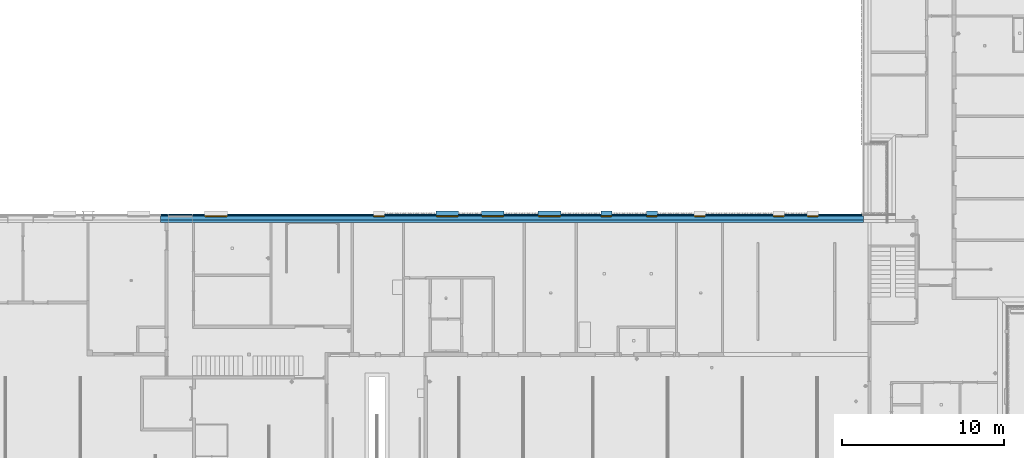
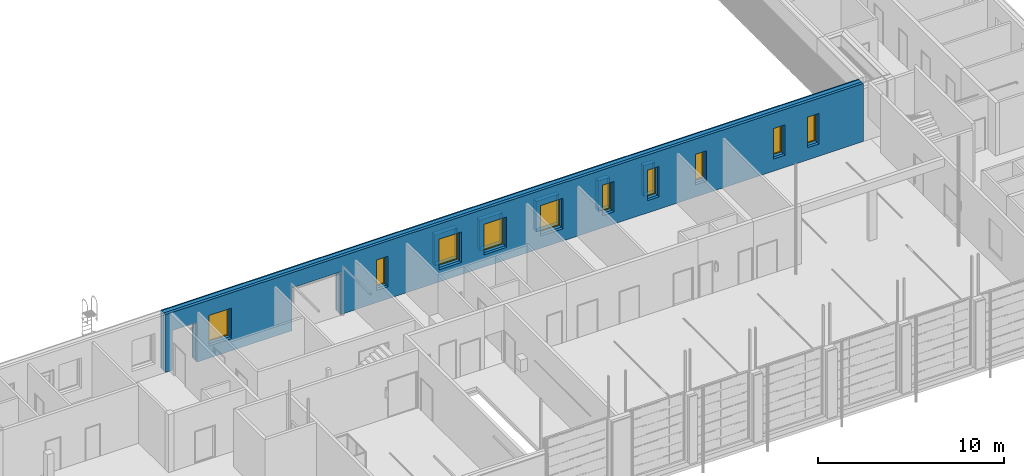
# One storey, part 32 of 112: 10 windows, 5 discrete accessories, 3 building element parts, 12 openings, 1 element without a shape of its own.
"""IFC2X3 building model written with IfcOpenShell, lengths in millimetres."""

from ifc_helpers import new_model, entity, si_unit, converted_unit, derived_unit, money_unit, direction, frame, origin_with_axes, origin_2d_with_axis, place, context, subcontext, project, spatial, polyline, rectangle, outline, extrude, open_shell, faceted_brep, surface_model, source, transform, mapped, material, type_object, element, fill, aggregate, save


model = new_model("IFC2X3")

# Units and contexts
model_context = context("Model", 3, precision=0.01, world=origin_with_axes(), true_north=direction((0.0, 1.0)))
body_context = subcontext(model_context, "Body", "Model", "MODEL_VIEW")
ifc_project = project(units=[si_unit("LENGTHUNIT", "METRE", prefix="MILLI"), si_unit("AREAUNIT", "SQUARE_METRE"), si_unit("VOLUMEUNIT", "CUBIC_METRE"), converted_unit("PLANEANGLEUNIT", "DEGREE", entity("IfcPlaneAngleMeasure", 0.0174532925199), si_unit("PLANEANGLEUNIT", "RADIAN"), dimensions=[0, 0, 0, 0, 0, 0, 0]), si_unit("SOLIDANGLEUNIT", "STERADIAN"), money_unit("EUR"), converted_unit("TIMEUNIT", "Year", entity("IfcTimeMeasure", 31556926.0), si_unit("TIMEUNIT", "SECOND"), dimensions=[0, 0, 1, 0, 0, 0, 0]), si_unit("MASSUNIT", "GRAM", prefix="KILO"), si_unit("THERMODYNAMICTEMPERATUREUNIT", "DEGREE_CELSIUS"), si_unit("LUMINOUSINTENSITYUNIT", "LUMEN"), si_unit("ENERGYUNIT", "JOULE", prefix="MEGA"), derived_unit("THERMALCONDUCTANCEUNIT", [(si_unit("POWERUNIT", "WATT"), 1), (si_unit("LENGTHUNIT", "METRE"), -1), (si_unit("THERMODYNAMICTEMPERATUREUNIT", "KELVIN"), -1)]), derived_unit("SPECIFICHEATCAPACITYUNIT", [(si_unit("ENERGYUNIT", "JOULE"), 1), (si_unit("MASSUNIT", "GRAM", prefix="KILO"), -1), (si_unit("THERMODYNAMICTEMPERATUREUNIT", "KELVIN"), -1)]), derived_unit("MASSDENSITYUNIT", [(si_unit("MASSUNIT", "GRAM", prefix="KILO"), 1), (si_unit("VOLUMEUNIT", "CUBIC_METRE"), -1)])], contexts=[model_context])

# Site, building, storey
site_placement = place(None, origin_with_axes())
site = spatial("IfcSite", under=ifc_project, at=site_placement, Name="Politse- ja Piirivalveameti ning Päästeameti ühishoone", CompositionType="ELEMENT")
building_placement = place(site_placement, origin_with_axes())
building = spatial("IfcBuilding", under=site, at=building_placement, Name="Politse- ja Piirivalveameti ning Päästeameti ühishoone", CompositionType="ELEMENT")
storey_placement = place(building_placement, origin_with_axes())
storey = spatial("IfcBuildingStorey", under=building, at=storey_placement, Name="Esimene korrus", CompositionType="ELEMENT", Elevation=0.0)

# Window
window_style_1 = type_object("IfcWindowStyle", Name="Window 23", ConstructionType="NOTDEFINED", OperationType="SINGLE_PANEL", ParameterTakesPrecedence=False, Sizeable=False)
shared_shape_1 = source(origin_with_axes(), body_context, "Body", "SurfaceModel", [
    faceted_brep([(-675.0, 0.0, 1950.0), (-700.0, 0.0, 1950.0), (-700.0, -50.0, 1950.0), (-650.0, -50.0, 1950.0), (-650.0, -25.0, 1950.0), (-675.0, -25.0, 1950.0), (-675.0, 0.0, 50.0), (-700.0, 0.0, 50.0), (-700.0, -50.0, 50.0), (-650.0, -50.0, 50.0), (-650.0, -25.0, 50.0), (-675.0, -25.0, 50.0)], [[[0, 1, 2, 3, 4, 5]], [[6, 7, 1, 0]], [[1, 7, 8, 2]], [[2, 8, 9, 3]], [[4, 3, 9, 10]], [[10, 11, 5, 4]], [[5, 11, 6, 0]], [[11, 10, 9, 8, 7, 6]]]),
    faceted_brep([(650.0, -25.0, 1950.0), (650.0, -50.0, 1950.0), (700.0, -50.0, 1950.0), (700.0, 0.0, 1950.0), (675.0, 0.0, 1950.0), (675.0, -25.0, 1950.0), (650.0, -25.0, 50.0), (650.0, -50.0, 50.0), (700.0, -50.0, 50.0), (700.0, 0.0, 50.0), (675.0, 0.0, 50.0), (675.0, -25.0, 50.0)], [[[0, 1, 2, 3, 4, 5]], [[6, 7, 1, 0]], [[8, 2, 1, 7]], [[9, 3, 2, 8]], [[4, 3, 9, 10]], [[10, 11, 5, 4]], [[5, 11, 6, 0]], [[11, 10, 9, 8, 7, 6]]]),
    faceted_brep([(650.0, -25.0, 50.0), (650.0, -50.0, 50.0), (700.0, -50.0, 50.0), (700.0, 0.0, 50.0), (675.0, 0.0, 50.0), (675.0, -25.0, 50.0), (-650.0, -25.0, 50.0), (-650.0, -50.0, 50.0), (-700.0, -50.0, 50.0), (-700.0, -50.0, 0.0), (700.0, -50.0, 0.0), (700.0, 0.0, 0.0), (-675.0, 0.0, 25.0), (675.0, 0.0, 25.0), (-700.0, 0.0, 0.0), (-700.0, 0.0, 50.0), (-675.0, 0.0, 50.0), (675.0, -25.0, 25.0), (-675.0, -25.0, 25.0), (-675.0, -25.0, 50.0)], [[[0, 1, 2, 3, 4, 5]], [[6, 7, 1, 0]], [[8, 9, 10, 2, 1, 7]], [[11, 3, 2, 10]], [[12, 13, 4, 3, 11, 14, 15, 16]], [[13, 17, 5, 4]], [[5, 17, 18, 19, 6, 0]], [[19, 16, 15, 8, 7, 6]], [[15, 14, 9, 8]], [[14, 11, 10, 9]], [[12, 18, 17, 13]], [[19, 18, 12, 16]]]),
    faceted_brep([(-675.0, 0.0, 1950.0), (-700.0, 0.0, 1950.0), (-700.0, 0.0, 2000.0), (700.0, 0.0, 2000.0), (700.0, 0.0, 1950.0), (675.0, 0.0, 1950.0), (675.0, 0.0, 1975.0), (-675.0, 0.0, 1975.0), (-675.0, -25.0, 1950.0), (-650.0, -25.0, 1950.0), (-650.0, -50.0, 1950.0), (-700.0, -50.0, 1950.0), (-700.0, -50.0, 2000.0), (700.0, -50.0, 2000.0), (700.0, -50.0, 1950.0), (675.0, -25.0, 1950.0), (650.0, -50.0, 1950.0), (650.0, -25.0, 1950.0), (675.0, -25.0, 1975.0), (-675.0, -25.0, 1975.0)], [[[0, 1, 2, 3, 4, 5, 6, 7]], [[8, 9, 10, 11, 1, 0]], [[2, 1, 11, 12]], [[3, 2, 12, 13]], [[4, 3, 13, 14]], [[15, 5, 4, 14, 16, 17]], [[5, 15, 18, 6]], [[6, 18, 19, 7]], [[7, 19, 8, 0]], [[17, 9, 8, 19, 18, 15]], [[17, 16, 10, 9]], [[14, 13, 12, 11, 10, 16]]]),
    faceted_brep([(-625.0, -25.0, 1925.0), (-625.0, 25.0, 1925.0), (-675.0, 25.0, 1925.0), (-675.0, -25.0, 1925.0), (-625.0, -25.0, 75.0), (-625.0, 25.0, 75.0), (-675.0, 25.0, 75.0), (-675.0, -25.0, 75.0)], [[[0, 1, 2, 3]], [[4, 5, 1, 0]], [[1, 5, 6, 2]], [[3, 2, 6, 7]], [[0, 3, 7, 4]], [[7, 6, 5, 4]]]),
    faceted_brep([(625.0, -25.0, 75.0), (625.0, 25.0, 75.0), (675.0, 25.0, 75.0), (675.0, -25.0, 75.0), (625.0, -25.0, 1925.0), (625.0, 25.0, 1925.0), (675.0, 25.0, 1925.0), (675.0, -25.0, 1925.0)], [[[0, 1, 2, 3]], [[4, 5, 1, 0]], [[1, 5, 6, 2]], [[3, 2, 6, 7]], [[0, 3, 7, 4]], [[7, 6, 5, 4]]]),
    faceted_brep([(675.0, -25.0, 25.0), (675.0, 25.0, 25.0), (675.0, 25.0, 75.0), (675.0, -25.0, 75.0), (-675.0, -25.0, 25.0), (-675.0, 25.0, 25.0), (-675.0, 25.0, 75.0), (-625.0, 25.0, 75.0), (625.0, 25.0, 75.0), (625.0, -25.0, 75.0), (-625.0, -25.0, 75.0), (-675.0, -25.0, 75.0)], [[[0, 1, 2, 3]], [[4, 5, 1, 0]], [[1, 5, 6, 7, 8, 2]], [[3, 2, 8, 9]], [[0, 3, 9, 10, 11, 4]], [[11, 6, 5, 4]], [[10, 7, 6, 11]], [[9, 8, 7, 10]]]),
    faceted_brep([(-675.0, -25.0, 1975.0), (-675.0, 25.0, 1975.0), (-675.0, 25.0, 1925.0), (-675.0, -25.0, 1925.0), (675.0, -25.0, 1975.0), (675.0, 25.0, 1975.0), (675.0, 25.0, 1925.0), (625.0, 25.0, 1925.0), (-625.0, 25.0, 1925.0), (-625.0, -25.0, 1925.0), (625.0, -25.0, 1925.0), (675.0, -25.0, 1925.0)], [[[0, 1, 2, 3]], [[4, 5, 1, 0]], [[1, 5, 6, 7, 8, 2]], [[3, 2, 8, 9]], [[0, 3, 9, 10, 11, 4]], [[11, 6, 5, 4]], [[10, 7, 6, 11]], [[9, 8, 7, 10]]]),
    surface_model("IfcShellBasedSurfaceModel", [(-625.0, -10.0, 75.0), (625.0, -10.0, 75.0), (625.0, -10.0, 1925.0), (-625.0, -10.0, 1925.0)], [open_shell([[[0, 1, 2, 3]]])]),
    surface_model("IfcShellBasedSurfaceModel", [(-625.0, 10.0, 75.0), (-625.0, 10.0, 1925.0), (625.0, 10.0, 1925.0), (625.0, 10.0, 75.0)], [open_shell([[[0, 1, 2, 3]]])]),
])
wall_placement = place(storey_placement, frame((16440.0858192, 20999.9520832, 0.0), z_axis=(0.0, 0.0, 1.0), x_axis=(1.0, 0.0, 0.0)))
opening_1_placement = place(wall_placement, frame((3409.79778747, 0.0, 800.0), z_axis=(0.0, 0.0, 1.0), x_axis=(1.0, 0.0, 0.0)))
window_1_placement = place(opening_1_placement, frame((700.0, 0.0, 0.0), z_axis=(0.0, 0.0, 1.0), x_axis=(-1.0, 0.0, 0.0)))
window_1 = element("IfcWindow", 1, at=window_1_placement, inside=storey, type_object=window_style_1, Name="A-02", ObjectType="WINDOW", OverallHeight=2000.0, OverallWidth=1400.0, context=body_context, shape_type="MappedRepresentation", body=[
    mapped(shared_shape_1, transform((700.0, -380.0, 0.0))),
])

opening_3_placement = place(wall_placement, frame((17644.219841, 0.0, 800.0), z_axis=(0.0, 0.0, 1.0), x_axis=(1.0, 0.0, 0.0)))
window_2_placement = place(opening_3_placement, frame((700.0, 0.0, 0.0), z_axis=(0.0, 0.0, 1.0), x_axis=(-1.0, 0.0, 0.0)))
window_2 = element("IfcWindow", 2, at=window_2_placement, inside=storey, type_object=window_style_1, Name="A-02", ObjectType="WINDOW", OverallHeight=2000.0, OverallWidth=1400.0, context=body_context, shape_type="MappedRepresentation", body=[
    mapped(shared_shape_1, transform((700.0, -380.0, 0.0))),
])

opening_4_placement = place(wall_placement, frame((20444.0984977, 0.0, 800.0), z_axis=(0.0, 0.0, 1.0), x_axis=(1.0, 0.0, 0.0)))
window_3_placement = place(opening_4_placement, frame((700.0, 0.0, 0.0), z_axis=(0.0, 0.0, 1.0), x_axis=(-1.0, 0.0, 0.0)))
window_3 = element("IfcWindow", 3, at=window_3_placement, inside=storey, type_object=window_style_1, Name="A-02", ObjectType="WINDOW", OverallHeight=2000.0, OverallWidth=1400.0, context=body_context, shape_type="MappedRepresentation", body=[
    mapped(shared_shape_1, transform((700.0, -380.0, 0.0))),
])

opening_5_placement = place(wall_placement, frame((23944.0984977, 0.0, 800.0), z_axis=(0.0, 0.0, 1.0), x_axis=(1.0, 0.0, 0.0)))
window_4_placement = place(opening_5_placement, frame((700.0, 0.0, 0.0), z_axis=(0.0, 0.0, 1.0), x_axis=(-1.0, 0.0, 0.0)))
window_4 = element("IfcWindow", 4, at=window_4_placement, inside=storey, type_object=window_style_1, Name="A-02", ObjectType="WINDOW", OverallHeight=2000.0, OverallWidth=1400.0, context=body_context, shape_type="MappedRepresentation", body=[
    mapped(shared_shape_1, transform((700.0, -380.0, 0.0))),
])

window_style_2 = type_object("IfcWindowStyle", Name="Window 23", ConstructionType="NOTDEFINED", OperationType="SINGLE_PANEL", ParameterTakesPrecedence=False, Sizeable=False)
shared_shape_2 = source(origin_with_axes(), body_context, "Body", "SurfaceModel", [
    faceted_brep([(-325.0, 0.0, 1950.0), (-350.0, 0.0, 1950.0), (-350.0, -50.0, 1950.0), (-300.0, -50.0, 1950.0), (-300.0, -25.0, 1950.0), (-325.0, -25.0, 1950.0), (-325.0, 0.0, 50.0), (-350.0, 0.0, 50.0), (-350.0, -50.0, 50.0), (-300.0, -50.0, 50.0), (-300.0, -25.0, 50.0), (-325.0, -25.0, 50.0)], [[[0, 1, 2, 3, 4, 5]], [[6, 7, 1, 0]], [[1, 7, 8, 2]], [[2, 8, 9, 3]], [[4, 3, 9, 10]], [[10, 11, 5, 4]], [[5, 11, 6, 0]], [[11, 10, 9, 8, 7, 6]]]),
    faceted_brep([(300.0, -25.0, 1950.0), (300.0, -50.0, 1950.0), (350.0, -50.0, 1950.0), (350.0, 0.0, 1950.0), (325.0, 0.0, 1950.0), (325.0, -25.0, 1950.0), (300.0, -25.0, 50.0), (300.0, -50.0, 50.0), (350.0, -50.0, 50.0), (350.0, 0.0, 50.0), (325.0, 0.0, 50.0), (325.0, -25.0, 50.0)], [[[0, 1, 2, 3, 4, 5]], [[6, 7, 1, 0]], [[8, 2, 1, 7]], [[9, 3, 2, 8]], [[4, 3, 9, 10]], [[10, 11, 5, 4]], [[5, 11, 6, 0]], [[11, 10, 9, 8, 7, 6]]]),
    faceted_brep([(300.0, -25.0, 50.0), (300.0, -50.0, 50.0), (350.0, -50.0, 50.0), (350.0, 0.0, 50.0), (325.0, 0.0, 50.0), (325.0, -25.0, 50.0), (-300.0, -25.0, 50.0), (-300.0, -50.0, 50.0), (-350.0, -50.0, 50.0), (-350.0, -50.0, 0.0), (350.0, -50.0, 0.0), (350.0, 0.0, 0.0), (-325.0, 0.0, 25.0), (325.0, 0.0, 25.0), (-350.0, 0.0, 0.0), (-350.0, 0.0, 50.0), (-325.0, 0.0, 50.0), (325.0, -25.0, 25.0), (-325.0, -25.0, 25.0), (-325.0, -25.0, 50.0)], [[[0, 1, 2, 3, 4, 5]], [[6, 7, 1, 0]], [[8, 9, 10, 2, 1, 7]], [[11, 3, 2, 10]], [[12, 13, 4, 3, 11, 14, 15, 16]], [[13, 17, 5, 4]], [[5, 17, 18, 19, 6, 0]], [[19, 16, 15, 8, 7, 6]], [[15, 14, 9, 8]], [[14, 11, 10, 9]], [[12, 18, 17, 13]], [[19, 18, 12, 16]]]),
    faceted_brep([(-325.0, 0.0, 1950.0), (-350.0, 0.0, 1950.0), (-350.0, 0.0, 2000.0), (350.0, 0.0, 2000.0), (350.0, 0.0, 1950.0), (325.0, 0.0, 1950.0), (325.0, 0.0, 1975.0), (-325.0, 0.0, 1975.0), (-325.0, -25.0, 1950.0), (-300.0, -25.0, 1950.0), (-300.0, -50.0, 1950.0), (-350.0, -50.0, 1950.0), (-350.0, -50.0, 2000.0), (350.0, -50.0, 2000.0), (350.0, -50.0, 1950.0), (325.0, -25.0, 1950.0), (300.0, -50.0, 1950.0), (300.0, -25.0, 1950.0), (325.0, -25.0, 1975.0), (-325.0, -25.0, 1975.0)], [[[0, 1, 2, 3, 4, 5, 6, 7]], [[8, 9, 10, 11, 1, 0]], [[2, 1, 11, 12]], [[3, 2, 12, 13]], [[4, 3, 13, 14]], [[15, 5, 4, 14, 16, 17]], [[5, 15, 18, 6]], [[6, 18, 19, 7]], [[7, 19, 8, 0]], [[17, 9, 8, 19, 18, 15]], [[17, 16, 10, 9]], [[14, 13, 12, 11, 10, 16]]]),
    faceted_brep([(-275.0, -25.0, 1925.0), (-275.0, 25.0, 1925.0), (-325.0, 25.0, 1925.0), (-325.0, -25.0, 1925.0), (-275.0, -25.0, 75.0), (-275.0, 25.0, 75.0), (-325.0, 25.0, 75.0), (-325.0, -25.0, 75.0)], [[[0, 1, 2, 3]], [[4, 5, 1, 0]], [[1, 5, 6, 2]], [[3, 2, 6, 7]], [[0, 3, 7, 4]], [[7, 6, 5, 4]]]),
    faceted_brep([(275.0, -25.0, 75.0), (275.0, 25.0, 75.0), (325.0, 25.0, 75.0), (325.0, -25.0, 75.0), (275.0, -25.0, 1925.0), (275.0, 25.0, 1925.0), (325.0, 25.0, 1925.0), (325.0, -25.0, 1925.0)], [[[0, 1, 2, 3]], [[4, 5, 1, 0]], [[1, 5, 6, 2]], [[3, 2, 6, 7]], [[0, 3, 7, 4]], [[7, 6, 5, 4]]]),
    faceted_brep([(325.0, -25.0, 25.0), (325.0, 25.0, 25.0), (325.0, 25.0, 75.0), (325.0, -25.0, 75.0), (-325.0, -25.0, 25.0), (-325.0, 25.0, 25.0), (-325.0, 25.0, 75.0), (-275.0, 25.0, 75.0), (275.0, 25.0, 75.0), (275.0, -25.0, 75.0), (-275.0, -25.0, 75.0), (-325.0, -25.0, 75.0)], [[[0, 1, 2, 3]], [[4, 5, 1, 0]], [[1, 5, 6, 7, 8, 2]], [[3, 2, 8, 9]], [[0, 3, 9, 10, 11, 4]], [[11, 6, 5, 4]], [[10, 7, 6, 11]], [[9, 8, 7, 10]]]),
    faceted_brep([(-325.0, -25.0, 1975.0), (-325.0, 25.0, 1975.0), (-325.0, 25.0, 1925.0), (-325.0, -25.0, 1925.0), (325.0, -25.0, 1975.0), (325.0, 25.0, 1975.0), (325.0, 25.0, 1925.0), (275.0, 25.0, 1925.0), (-275.0, 25.0, 1925.0), (-275.0, -25.0, 1925.0), (275.0, -25.0, 1925.0), (325.0, -25.0, 1925.0)], [[[0, 1, 2, 3]], [[4, 5, 1, 0]], [[1, 5, 6, 7, 8, 2]], [[3, 2, 8, 9]], [[0, 3, 9, 10, 11, 4]], [[11, 6, 5, 4]], [[10, 7, 6, 11]], [[9, 8, 7, 10]]]),
    surface_model("IfcShellBasedSurfaceModel", [(-275.0, -10.0, 75.0), (275.0, -10.0, 75.0), (275.0, -10.0, 1925.0), (-275.0, -10.0, 1925.0)], [open_shell([[[0, 1, 2, 3]]])]),
    surface_model("IfcShellBasedSurfaceModel", [(-275.0, 10.0, 75.0), (-275.0, 10.0, 1925.0), (275.0, 10.0, 1925.0), (275.0, 10.0, 75.0)], [open_shell([[[0, 1, 2, 3]]])]),
])
opening_2_placement = place(wall_placement, frame((13444.0984977, 0.0, 800.0), z_axis=(0.0, 0.0, 1.0), x_axis=(1.0, 0.0, 0.0)))
window_5_placement = place(opening_2_placement, frame((350.0, 0.0, 0.0), z_axis=(0.0, 0.0, 1.0), x_axis=(-1.0, 0.0, 0.0)))
window_5 = element("IfcWindow", 5, at=window_5_placement, inside=storey, type_object=window_style_2, Name="A-01", ObjectType="WINDOW", OverallHeight=2000.0, OverallWidth=700.0, context=body_context, shape_type="MappedRepresentation", body=[
    mapped(shared_shape_2, transform((350.0, -380.0, 0.0))),
])

opening_6_placement = place(wall_placement, frame((27444.0984977, 0.0, 800.0), z_axis=(0.0, 0.0, 1.0), x_axis=(1.0, 0.0, 0.0)))
window_6_placement = place(opening_6_placement, frame((350.0, 0.0, 0.0), z_axis=(0.0, 0.0, 1.0), x_axis=(-1.0, 0.0, 0.0)))
window_6 = element("IfcWindow", 6, at=window_6_placement, inside=storey, type_object=window_style_2, Name="A-01", ObjectType="WINDOW", OverallHeight=2000.0, OverallWidth=700.0, context=body_context, shape_type="MappedRepresentation", body=[
    mapped(shared_shape_2, transform((350.0, -380.0, 0.0))),
])

opening_7_placement = place(wall_placement, frame((30244.2255599, 0.0, 800.0), z_axis=(0.0, 0.0, 1.0), x_axis=(1.0, 0.0, 0.0)))
window_7_placement = place(opening_7_placement, frame((350.0, 0.0, 0.0), z_axis=(0.0, 0.0, 1.0), x_axis=(-1.0, 0.0, 0.0)))
window_7 = element("IfcWindow", 7, at=window_7_placement, inside=storey, type_object=window_style_2, Name="A-01", ObjectType="WINDOW", OverallHeight=2000.0, OverallWidth=700.0, context=body_context, shape_type="MappedRepresentation", body=[
    mapped(shared_shape_2, transform((350.0, -380.0, 0.0))),
])

opening_8_placement = place(wall_placement, frame((33193.7679025, 0.0, 800.0), z_axis=(0.0, 0.0, 1.0), x_axis=(1.0, 0.0, 0.0)))
window_8_placement = place(opening_8_placement, frame((350.0, 0.0, 0.0), z_axis=(0.0, 0.0, 1.0), x_axis=(-1.0, 0.0, 0.0)))
window_8 = element("IfcWindow", 8, at=window_8_placement, inside=storey, type_object=window_style_2, Name="A-01", ObjectType="WINDOW", OverallHeight=2000.0, OverallWidth=700.0, context=body_context, shape_type="MappedRepresentation", body=[
    mapped(shared_shape_2, transform((350.0, -380.0, 0.0))),
])

opening_9_placement = place(wall_placement, frame((38044.4590649, 0.0, 800.0), z_axis=(0.0, 0.0, 1.0), x_axis=(1.0, 0.0, 0.0)))
window_9_placement = place(opening_9_placement, frame((350.0, 0.0, 0.0), z_axis=(0.0, 0.0, 1.0), x_axis=(-1.0, 0.0, 0.0)))
window_9 = element("IfcWindow", 9, at=window_9_placement, inside=storey, type_object=window_style_2, Name="A-01", ObjectType="WINDOW", OverallHeight=2000.0, OverallWidth=700.0, context=body_context, shape_type="MappedRepresentation", body=[
    mapped(shared_shape_2, transform((350.0, -380.0, 0.0))),
])

opening_10_placement = place(wall_placement, frame((40144.4590649, 0.0, 800.0), z_axis=(0.0, 0.0, 1.0), x_axis=(1.0, 0.0, 0.0)))
window_10_placement = place(opening_10_placement, frame((350.0, 0.0, 0.0), z_axis=(0.0, 0.0, 1.0), x_axis=(-1.0, 0.0, 0.0)))
window_10 = element("IfcWindow", 10, at=window_10_placement, inside=storey, type_object=window_style_2, Name="A-01", ObjectType="WINDOW", OverallHeight=2000.0, OverallWidth=700.0, context=body_context, shape_type="MappedRepresentation", body=[
    mapped(shared_shape_2, transform((350.0, -380.0, 0.0))),
])

# Discrete accessories
ifc_material_1 = material(Name="SV-01_Krohv - Kips")
discrete_accessory_type = type_object("IfcDiscreteAccessoryType", Name="Architrave 01 23")
shared_shape_3 = source(origin_with_axes(), body_context, "Body", "Brep", [
    faceted_brep([(350.0, 0.0, -10.0), (350.0, -300.182356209, -10.0), (-350.0, -300.182356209, -10.0), (-350.0, 0.0, -10.0), (340.0, 0.0, 0.0), (340.0, -300.182356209, 0.0), (-340.0, -300.182356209, 0.0), (-340.0, 0.0, 0.0)], [[[0, 1, 2, 3]], [[4, 5, 1, 0]], [[1, 5, 6, 2]], [[3, 2, 6, 7]], [[0, 3, 7, 4]], [[7, 6, 5, 4]]]),
    faceted_brep([(-350.0, 0.0, -10.0), (-350.0, -300.182356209, -10.0), (-350.0, -300.182356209, 1990.0), (-350.0, 0.0, 1990.0), (-340.0, 0.0, 0.0), (-340.0, -300.182356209, 0.0), (-340.0, -300.182356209, 1980.0), (-340.0, 0.0, 1980.0)], [[[0, 1, 2, 3]], [[4, 5, 1, 0]], [[1, 5, 6, 2]], [[3, 2, 6, 7]], [[0, 3, 7, 4]], [[7, 6, 5, 4]]]),
    faceted_brep([(-350.0, 0.0, 1990.0), (-350.0, -300.182356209, 1990.0), (350.0, -300.182356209, 1990.0), (350.0, 0.0, 1990.0), (-340.0, 0.0, 1980.0), (-340.0, -300.182356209, 1980.0), (340.0, -300.182356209, 1980.0), (340.0, 0.0, 1980.0)], [[[0, 1, 2, 3]], [[4, 5, 1, 0]], [[1, 5, 6, 2]], [[3, 2, 6, 7]], [[0, 3, 7, 4]], [[7, 6, 5, 4]]]),
    faceted_brep([(350.0, 0.0, 1990.0), (350.0, -300.182356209, 1990.0), (350.0, -300.182356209, -10.0), (350.0, 0.0, -10.0), (340.0, 0.0, 1980.0), (340.0, -300.182356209, 1980.0), (340.0, -300.182356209, 0.0), (340.0, 0.0, 0.0)], [[[0, 1, 2, 3]], [[4, 5, 1, 0]], [[1, 5, 6, 2]], [[3, 2, 6, 7]], [[0, 3, 7, 4]], [[7, 6, 5, 4]]]),
])
for number, where, z_axis, x_axis, name in (
    (11, (46684.3113791, 21429.9520832, 810.0), (0.0, 0.0, 1.0), (-1.0, 0.0, 0.0), "AKNARAAM 01"),
    (12, (43884.1843169, 21429.9520832, 810.0), (0.0, 0.0, 1.0), (-1.0, 0.0, 0.0), "AKNARAAM 01"),
):
    element("IfcDiscreteAccessory", number, at=place(storey_placement, frame(where, z_axis=z_axis, x_axis=x_axis)), inside=storey, type_object=discrete_accessory_type, material=ifc_material_1, Name=name, context=body_context, shape_type="MappedRepresentation", body=[
        mapped(shared_shape_3, transform((0.0, 0.0, 0.0))),
    ])
shared_shape_4 = source(origin_with_axes(), body_context, "Body", "Brep", [
    faceted_brep([(700.0, 0.0, -10.0), (700.0, -300.182356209, -10.0), (-700.0, -300.182356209, -10.0), (-700.0, 0.0, -10.0), (690.0, 0.0, 0.0), (690.0, -300.182356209, 0.0), (-690.0, -300.182356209, 0.0), (-690.0, 0.0, 0.0)], [[[0, 1, 2, 3]], [[4, 5, 1, 0]], [[1, 5, 6, 2]], [[3, 2, 6, 7]], [[0, 3, 7, 4]], [[7, 6, 5, 4]]]),
    faceted_brep([(-700.0, 0.0, -10.0), (-700.0, -300.182356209, -10.0), (-700.0, -300.182356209, 1990.0), (-700.0, 0.0, 1990.0), (-690.0, 0.0, 0.0), (-690.0, -300.182356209, 0.0), (-690.0, -300.182356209, 1980.0), (-690.0, 0.0, 1980.0)], [[[0, 1, 2, 3]], [[4, 5, 1, 0]], [[1, 5, 6, 2]], [[3, 2, 6, 7]], [[0, 3, 7, 4]], [[7, 6, 5, 4]]]),
    faceted_brep([(-700.0, 0.0, 1990.0), (-700.0, -300.182356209, 1990.0), (700.0, -300.182356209, 1990.0), (700.0, 0.0, 1990.0), (-690.0, 0.0, 1980.0), (-690.0, -300.182356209, 1980.0), (690.0, -300.182356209, 1980.0), (690.0, 0.0, 1980.0)], [[[0, 1, 2, 3]], [[4, 5, 1, 0]], [[1, 5, 6, 2]], [[3, 2, 6, 7]], [[0, 3, 7, 4]], [[7, 6, 5, 4]]]),
    faceted_brep([(700.0, 0.0, 1990.0), (700.0, -300.182356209, 1990.0), (700.0, -300.182356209, -10.0), (700.0, 0.0, -10.0), (690.0, 0.0, 1980.0), (690.0, -300.182356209, 1980.0), (690.0, -300.182356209, 0.0), (690.0, 0.0, 0.0)], [[[0, 1, 2, 3]], [[4, 5, 1, 0]], [[1, 5, 6, 2]], [[3, 2, 6, 7]], [[0, 3, 7, 4]], [[7, 6, 5, 4]]]),
])
for number, where, z_axis, x_axis, name in (
    (13, (40384.1843169, 21429.9520832, 810.0), (0.0, 0.0, 1.0), (-1.0, 0.0, 0.0), "AKNARAAM 01"),
    (14, (36884.1843169, 21429.9520832, 810.0), (0.0, 0.0, 1.0), (-1.0, 0.0, 0.0), "AKNARAAM 01"),
    (15, (34084.3056601, 21429.9520832, 810.0), (0.0, 0.0, 1.0), (-1.0, 0.0, 0.0), "AKNARAAM 01"),
):
    element("IfcDiscreteAccessory", number, at=place(storey_placement, frame(where, z_axis=z_axis, x_axis=x_axis)), inside=storey, type_object=discrete_accessory_type, material=ifc_material_1, Name=name, context=body_context, shape_type="MappedRepresentation", body=[
        mapped(shared_shape_4, transform((0.0, 0.0, 0.0))),
    ])

# Wall, opening
wall_type = type_object("IfcWallType", Name="VS-01_välissein 510", PredefinedType="NOTDEFINED")
wall = element("IfcWall", 16, at=wall_placement, inside=storey, type_object=wall_type, Name="VS-01")
opening_1 = element("IfcOpeningElement", 17, at=opening_1_placement, cuts=wall, Name="A-02", context=body_context, shape_type="SweptSolid", body=[
    extrude(rectangle(XDim=1400.0, YDim=2000.0, at=origin_2d_with_axis()), frame((0.0, 430.0, 1000.0), z_axis=(0.0, 1.0, 0.0), x_axis=(-1.0, 0.0, 0.0)), (0.0, 0.0, -1.0), 940.0),
    extrude(rectangle(XDim=1400.0, YDim=2000.0, at=origin_2d_with_axis()), frame((0.0, 430.0, 1000.0), z_axis=(0.0, -1.0, 0.0), x_axis=(-1.0, 0.0, 0.0)), (0.0, 0.0, -1.0), 590.0),
])

fill(opening_1, window_1)

# Opening
opening_2 = element("IfcOpeningElement", 18, at=opening_2_placement, cuts=wall, Name="A-01", context=body_context, shape_type="SweptSolid", body=[
    extrude(rectangle(XDim=700.0, YDim=2000.0, at=origin_2d_with_axis()), frame((0.0, 430.0, 1000.0), z_axis=(0.0, 1.0, 0.0), x_axis=(-1.0, 0.0, 0.0)), (0.0, 0.0, -1.0), 940.0),
    extrude(rectangle(XDim=700.0, YDim=2000.0, at=origin_2d_with_axis()), frame((0.0, 430.0, 1000.0), z_axis=(0.0, -1.0, 0.0), x_axis=(-1.0, 0.0, 0.0)), (0.0, 0.0, -1.0), 590.0),
])

fill(opening_2, window_5)

opening_3 = element("IfcOpeningElement", 19, at=opening_3_placement, cuts=wall, Name="A-02", context=body_context, shape_type="SweptSolid", body=[
    extrude(rectangle(XDim=1400.0, YDim=2000.0, at=origin_2d_with_axis()), frame((0.0, 430.0, 1000.0), z_axis=(0.0, 1.0, 0.0), x_axis=(-1.0, 0.0, 0.0)), (0.0, 0.0, -1.0), 940.0),
    extrude(rectangle(XDim=1400.0, YDim=2000.0, at=origin_2d_with_axis()), frame((0.0, 430.0, 1000.0), z_axis=(0.0, -1.0, 0.0), x_axis=(-1.0, 0.0, 0.0)), (0.0, 0.0, -1.0), 590.0),
])

fill(opening_3, window_2)

opening_4 = element("IfcOpeningElement", 20, at=opening_4_placement, cuts=wall, Name="A-02", context=body_context, shape_type="SweptSolid", body=[
    extrude(rectangle(XDim=1400.0, YDim=2000.0, at=origin_2d_with_axis()), frame((0.0, 430.0, 1000.0), z_axis=(0.0, 1.0, 0.0), x_axis=(-1.0, 0.0, 0.0)), (0.0, 0.0, -1.0), 940.0),
    extrude(rectangle(XDim=1400.0, YDim=2000.0, at=origin_2d_with_axis()), frame((0.0, 430.0, 1000.0), z_axis=(0.0, -1.0, 0.0), x_axis=(-1.0, 0.0, 0.0)), (0.0, 0.0, -1.0), 590.0),
])

fill(opening_4, window_3)

opening_5 = element("IfcOpeningElement", 21, at=opening_5_placement, cuts=wall, Name="A-02", context=body_context, shape_type="SweptSolid", body=[
    extrude(rectangle(XDim=1400.0, YDim=2000.0, at=origin_2d_with_axis()), frame((0.0, 430.0, 1000.0), z_axis=(0.0, 1.0, 0.0), x_axis=(-1.0, 0.0, 0.0)), (0.0, 0.0, -1.0), 940.0),
    extrude(rectangle(XDim=1400.0, YDim=2000.0, at=origin_2d_with_axis()), frame((0.0, 430.0, 1000.0), z_axis=(0.0, -1.0, 0.0), x_axis=(-1.0, 0.0, 0.0)), (0.0, 0.0, -1.0), 590.0),
])

fill(opening_5, window_4)

opening_6 = element("IfcOpeningElement", 22, at=opening_6_placement, cuts=wall, Name="A-01", context=body_context, shape_type="SweptSolid", body=[
    extrude(rectangle(XDim=700.0, YDim=2000.0, at=origin_2d_with_axis()), frame((0.0, 430.0, 1000.0), z_axis=(0.0, 1.0, 0.0), x_axis=(-1.0, 0.0, 0.0)), (0.0, 0.0, -1.0), 940.0),
    extrude(rectangle(XDim=700.0, YDim=2000.0, at=origin_2d_with_axis()), frame((0.0, 430.0, 1000.0), z_axis=(0.0, -1.0, 0.0), x_axis=(-1.0, 0.0, 0.0)), (0.0, 0.0, -1.0), 590.0),
])

fill(opening_6, window_6)

opening_7 = element("IfcOpeningElement", 23, at=opening_7_placement, cuts=wall, Name="A-01", context=body_context, shape_type="SweptSolid", body=[
    extrude(rectangle(XDim=700.0, YDim=2000.0, at=origin_2d_with_axis()), frame((0.0, 430.0, 1000.0), z_axis=(0.0, 1.0, 0.0), x_axis=(-1.0, 0.0, 0.0)), (0.0, 0.0, -1.0), 940.0),
    extrude(rectangle(XDim=700.0, YDim=2000.0, at=origin_2d_with_axis()), frame((0.0, 430.0, 1000.0), z_axis=(0.0, -1.0, 0.0), x_axis=(-1.0, 0.0, 0.0)), (0.0, 0.0, -1.0), 590.0),
])

fill(opening_7, window_7)

opening_8 = element("IfcOpeningElement", 24, at=opening_8_placement, cuts=wall, Name="A-01", context=body_context, shape_type="SweptSolid", body=[
    extrude(rectangle(XDim=700.0, YDim=2000.0, at=origin_2d_with_axis()), frame((0.0, 430.0, 1000.0), z_axis=(0.0, 1.0, 0.0), x_axis=(-1.0, 0.0, 0.0)), (0.0, 0.0, -1.0), 940.0),
    extrude(rectangle(XDim=700.0, YDim=2000.0, at=origin_2d_with_axis()), frame((0.0, 430.0, 1000.0), z_axis=(0.0, -1.0, 0.0), x_axis=(-1.0, 0.0, 0.0)), (0.0, 0.0, -1.0), 590.0),
])

fill(opening_8, window_8)

opening_9 = element("IfcOpeningElement", 25, at=opening_9_placement, cuts=wall, Name="A-01", context=body_context, shape_type="SweptSolid", body=[
    extrude(rectangle(XDim=700.0, YDim=2000.0, at=origin_2d_with_axis()), frame((0.0, 430.0, 1000.0), z_axis=(0.0, 1.0, 0.0), x_axis=(-1.0, 0.0, 0.0)), (0.0, 0.0, -1.0), 940.0),
    extrude(rectangle(XDim=700.0, YDim=2000.0, at=origin_2d_with_axis()), frame((0.0, 430.0, 1000.0), z_axis=(0.0, -1.0, 0.0), x_axis=(-1.0, 0.0, 0.0)), (0.0, 0.0, -1.0), 590.0),
])

fill(opening_9, window_9)

opening_10 = element("IfcOpeningElement", 26, at=opening_10_placement, cuts=wall, Name="A-01", context=body_context, shape_type="SweptSolid", body=[
    extrude(rectangle(XDim=700.0, YDim=2000.0, at=origin_2d_with_axis()), frame((0.0, 430.0, 1000.0), z_axis=(0.0, 1.0, 0.0), x_axis=(-1.0, 0.0, 0.0)), (0.0, 0.0, -1.0), 940.0),
    extrude(rectangle(XDim=700.0, YDim=2000.0, at=origin_2d_with_axis()), frame((0.0, 430.0, 1000.0), z_axis=(0.0, -1.0, 0.0), x_axis=(-1.0, 0.0, 0.0)), (0.0, 0.0, -1.0), 590.0),
])

fill(opening_10, window_10)

opening_11_placement = place(wall_placement, frame((1210.00000037, 0.0, 0.0), z_axis=(0.0, 0.0, 1.0), x_axis=(1.0, 0.0, 0.0)))
element("IfcOpeningElement", 27, at=opening_11_placement, cuts=wall, Name="VU-08", context=body_context, shape_type="SweptSolid", body=[
    extrude(rectangle(XDim=1500.0, YDim=2600.0, at=origin_2d_with_axis()), frame((0.0, 430.0, 1300.0), z_axis=(0.0, -1.0, 0.0), x_axis=(-1.0, 0.0, 0.0)), (0.0, 0.0, 1.0), 940.0),
    extrude(rectangle(XDim=1500.0, YDim=2600.0, at=origin_2d_with_axis()), frame((0.0, 430.0, 1300.0), z_axis=(0.0, 1.0, 0.0), x_axis=(-1.0, 0.0, 0.0)), (0.0, 0.0, 1.0), 590.0),
    extrude(rectangle(XDim=1574.0, YDim=2637.0, at=origin_2d_with_axis()), frame((0.0, 0.0, 1318.5), z_axis=(0.0, -1.0, 0.0), x_axis=(-1.0, 0.0, 0.0)), (0.0, 0.0, 1.0), 590.0),
    extrude(rectangle(XDim=1574.0, YDim=2637.0, at=origin_2d_with_axis()), frame((0.0, 510.0, 1318.5), z_axis=(0.0, 1.0, 0.0), x_axis=(-1.0, 0.0, 0.0)), (0.0, 0.0, 1.0), 590.0),
])

opening_12_placement = place(wall_placement, frame((9354.59144324, 0.0, 0.0), z_axis=(0.0, 0.0, 1.0), x_axis=(1.0, 0.0, 0.0)))
element("IfcOpeningElement", 28, at=opening_12_placement, cuts=wall, Name="TV-04", context=body_context, shape_type="SweptSolid", body=[
    extrude(rectangle(XDim=3000.0, YDim=2800.0, at=origin_2d_with_axis()), frame((0.0, 0.0, 1400.0), z_axis=(0.0, 1.0, 0.0), x_axis=(-1.0, 0.0, 0.0)), (0.0, 0.0, 1.0), 1020.0),
    extrude(outline(polyline([(-1500.0, 5600.0), (-1500.0, 2800.0), (1500.0, 2800.0), (1500.0, 5600.0), (-1500.0, 5600.0)])), frame((0.0, -50.0, 0.0), z_axis=(0.0, 1.0, 0.0), x_axis=(-1.0, 0.0, 0.0)), (0.0, 0.0, -1.0), 45.0),
    extrude(rectangle(XDim=3000.0, YDim=2800.0, at=origin_2d_with_axis()), frame((0.0, 0.0, 1400.0), z_axis=(0.0, -1.0, 0.0), x_axis=(-1.0, 0.0, 0.0)), (0.0, 0.0, 1.0), 1020.0),
])

# Building element part
ifc_material_2 = material(Name="KON-04_Betoon - Konstuktsioon")
building_element_part_1_placement = place(wall_placement, origin_with_axes())
building_element_part_1 = element("IfcBuildingElementPart", 29, at=building_element_part_1_placement, material=ifc_material_2, Name="KON-04_Betoon - Konstuktsioon", context=body_context, shape_type="SweptSolid", body=[
    extrude(outline(polyline([(0.0, 0.0), (43260.4660926, 0.0), (43260.4660926, 180.0), (0.0, 180.0), (0.0, 0.0)])), origin_with_axes(), (0.0, 0.0, 1.0), 3800.0),
])

ifc_material_3 = material(Name="SOJ-06_Soojustus - Plastik Kõva")
building_element_part_2_placement = place(wall_placement, origin_with_axes())
building_element_part_2 = element("IfcBuildingElementPart", 30, at=building_element_part_2_placement, material=ifc_material_3, Name="SOJ-06_Soojustus - Plastik Kõva", context=body_context, shape_type="SweptSolid", body=[
    extrude(outline(polyline([(0.0, 180.0), (43260.4660926, 180.0), (43260.4660926, 430.0), (0.0, 430.0), (0.0, 180.0)])), origin_with_axes(), (0.0, 0.0, 1.0), 3800.0),
])

building_element_part_3_placement = place(wall_placement, origin_with_axes())
building_element_part_3 = element("IfcBuildingElementPart", 31, at=building_element_part_3_placement, material=ifc_material_2, Name="KON-04_Betoon - Konstuktsioon", context=body_context, shape_type="SweptSolid", body=[
    extrude(outline(polyline([(0.0, 430.0), (43260.4660926, 430.0), (43260.4660926, 510.0), (0.0, 510.0), (0.0, 430.0)])), origin_with_axes(), (0.0, 0.0, 1.0), 3800.0),
])

aggregate(wall, [building_element_part_1, building_element_part_2, building_element_part_3])

save(model, "model.ifc")
